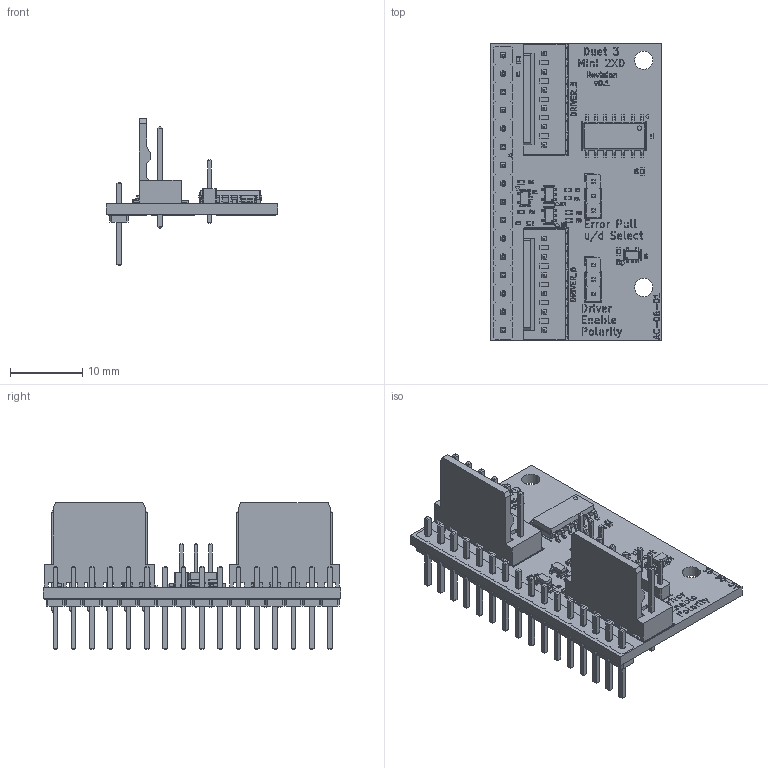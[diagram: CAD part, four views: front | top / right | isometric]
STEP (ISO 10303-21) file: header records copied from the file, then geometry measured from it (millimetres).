
FILE_DESCRIPTION(('FreeCAD Model'),'2;1');
FILE_NAME('Open CASCADE Shape Model','2025-09-26T15:48:16',(''),(''), 'Open CASCADE STEP processor 7.8','FreeCAD','Unknown');
FILE_SCHEMA(('AUTOMOTIVE_DESIGN { 1 0 10303 214 1 1 1 1 }'));
Length unit declared in the file: millimetre
Products named in the file (11): Duet3_Exp_2XD_v0.1 1; SOT-323_SC-70; R_0402_1005Metric; SOT-353_SC-70-5; Molex_KK-254_AE-6410-06A_1x06_P2.54mm_Vertical; C_0402_1005Metric; SOIC-14_3.9x8.7mm_P1.27mm; PinHeader_1x03_P2.00mm_Vertical; PinHeader_1x16_P2.54mm_Vertical; Duet3_Exp_2XD_silkscreen; Duet3_Exp_2XD_PCB
Assembly tree (22 placements, depth 2):
  Duet3_Exp_2XD_v0.1 1
    SOT-323_SC-70
    R_0402_1005Metric  x6
    SOT-353_SC-70-5  x3
    Molex_KK-254_AE-6410-06A_1x06_P2.54mm_Vertical  x2
    C_0402_1005Metric  x4
    SOIC-14_3.9x8.7mm_P1.27mm
    PinHeader_1x03_P2.00mm_Vertical  x2
    PinHeader_1x16_P2.54mm_Vertical
    Duet3_Exp_2XD_silkscreen
    Duet3_Exp_2XD_PCB
Bounding box: 23.8 x 41.3 x 20.32 mm (x, y, z)
Volume: 2647.4 mm3; surface area: 5188 mm2
Topology: 21 solids, 364 shells, 2160 faces, 16701 edges, 33178 vertices
Faces by surface type: plane 1786, cylinder 294, bspline 80
Full cylindrical faces by diameter (mm): 0.8 x6, 1 x12, 2.54 x2
Entity records: 296556 total; most frequent: CARTESIAN_POINT 66509, DIRECTION 32017, LINE 21952, VECTOR 21952, ORIENTED_EDGE 11945, PCURVE 11945, DEFINITIONAL_REPRESENTATION 11945, EDGE_CURVE 9001
